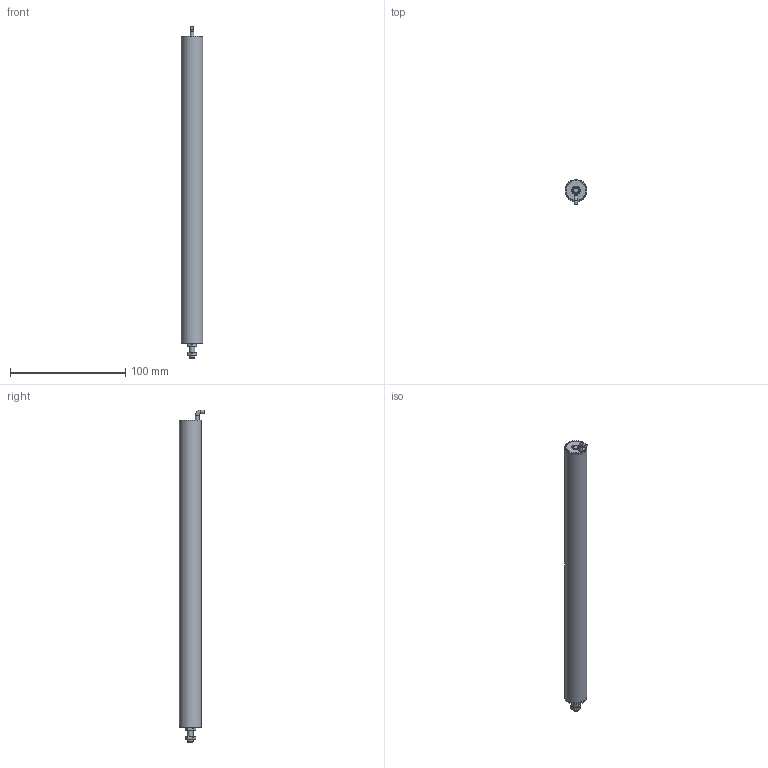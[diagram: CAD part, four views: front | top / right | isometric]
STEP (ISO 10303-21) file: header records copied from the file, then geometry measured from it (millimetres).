
FILE_DESCRIPTION(/* description */ ('ILPS-19Z-XXX-A-00-ZZ shrinkwrapped'),/* implementation_level */ '2;1');
FILE_NAME(/* name */ 'ILPS-19Z-250-A-00-ZZ shrinkwrapped.stp',/* time_stamp */ '2026-08-13T16:11:14-04:00',/* author */ ('Cameron'),/* organization */ ('hgsi'),/* preprocessor_version */ 'ST-DEVELOPER v20.1',/* originating_system */ 'Autodesk Inventor 2027',/* authorisation */ '');
FILE_SCHEMA (('AUTOMOTIVE_DESIGN { 1 0 10303 214 3 1 1 }'));
Length unit declared in the file: inch
Products named in the file (4): ILPS-19Z-250-A-00-ZZ shrinkwrapped; ILPS-19Z-250-A-00-ZZ-A shrinkwrapped body; ILPS-19Z-250 Rod; 8200-0360
Assembly tree (4 placements, depth 2):
  ILPS-19Z-250-A-00-ZZ shrinkwrapped
    ILPS-19Z-250-A-00-ZZ-A shrinkwrapped body
    ILPS-19Z-250 Rod
    8200-0360  x2
Bounding box: 19.05 x 21.89 x 288.1 mm (x, y, z)
Volume: 14430.4 mm3; surface area: 56407.9 mm2
Topology: 6 solids, 6 shells, 95 faces, 226 edges, 149 vertices
Faces by surface type: cylinder 41, plane 33, cone 16, bspline 4, torus 1
Full cylindrical faces by diameter (mm): 3.175 x2, 3.961 x2, 4.75 x1, 4.775 x1, 5 x4, 5.08 x1, 5.944 x2, 5.994 x1, 7.061 x1, 7.137 x2, 18.364 x1, 18.415 x1, 19.05 x1
Entity records: 2811 total; most frequent: CARTESIAN_POINT 1138, DIRECTION 304, ORIENTED_EDGE 302, EDGE_CURVE 151, AXIS2_PLACEMENT_3D 127, VERTEX_POINT 99, EDGE_LOOP 82, FACE_OUTER_BOUND 68
